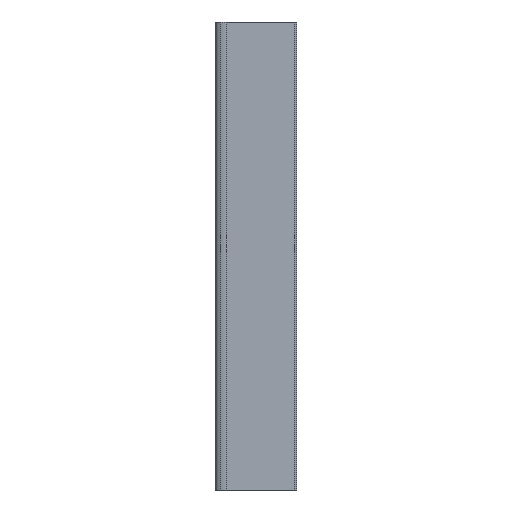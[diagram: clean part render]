
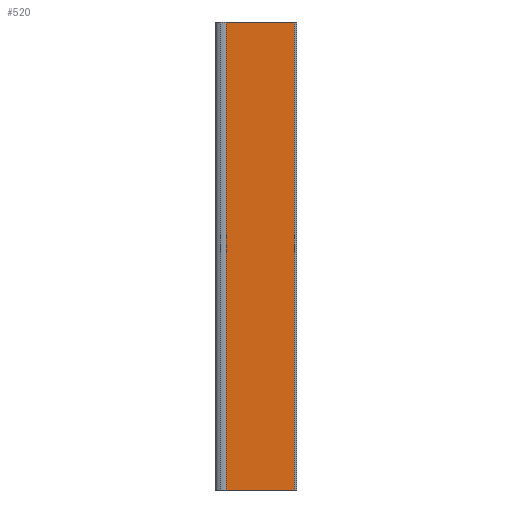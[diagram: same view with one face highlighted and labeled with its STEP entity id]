
A CAD part, left-side view. The second image highlights one B-rep face of the part: STEP entity #520.
In plain terms, the highlighted planar face has unit normal (-1, 0, 0).
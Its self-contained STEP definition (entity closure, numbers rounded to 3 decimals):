
#40 = VERTEX_POINT ( 'NONE', #83 ) ;
#83 = CARTESIAN_POINT ( 'NONE',  ( -8.945, -78.967, 0. ) ) ;
#154 = PLANE ( 'NONE',  #1237 ) ;
#157 = CARTESIAN_POINT ( 'NONE',  ( -8.945, -3.6, 518. ) ) ;
#163 = DIRECTION ( 'NONE',  ( 1., 0., 0. ) ) ;
#164 = DIRECTION ( 'NONE',  ( 0., 1., 0. ) ) ;
#280 = EDGE_LOOP ( 'NONE', ( #375, #377, #368, #413 ) ) ;
#368 = ORIENTED_EDGE ( 'NONE', *, *, #1047, .F. ) ;
#375 = ORIENTED_EDGE ( 'NONE', *, *, #1097, .T. ) ;
#377 = ORIENTED_EDGE ( 'NONE', *, *, #1089, .F. ) ;
#413 = ORIENTED_EDGE ( 'NONE', *, *, #1184, .T. ) ;
#520 = ADVANCED_FACE ( 'NONE', ( #1378 ), #154, .F. ) ;
#562 = VERTEX_POINT ( 'NONE', #680 ) ;
#569 = VERTEX_POINT ( 'NONE', #686 ) ;
#570 = VERTEX_POINT ( 'NONE', #687 ) ;
#680 = CARTESIAN_POINT ( 'NONE',  ( -8.945, -78.967, 518. ) ) ;
#686 = CARTESIAN_POINT ( 'NONE',  ( -8.945, -3.6, 0. ) ) ;
#687 = CARTESIAN_POINT ( 'NONE',  ( -8.945, -3.6, 518. ) ) ;
#716 = CARTESIAN_POINT ( 'NONE',  ( -8.945, -3.6, 518. ) ) ;
#722 = DIRECTION ( 'NONE',  ( 0., -1., 0. ) ) ;
#804 = CARTESIAN_POINT ( 'NONE',  ( -8.945, -78.967, 518. ) ) ;
#807 = DIRECTION ( 'NONE',  ( 0., 0., -1. ) ) ;
#814 = CARTESIAN_POINT ( 'NONE',  ( -8.945, -3.6, 0. ) ) ;
#827 = DIRECTION ( 'NONE',  ( 0., -1., 0. ) ) ;
#901 = CARTESIAN_POINT ( 'NONE',  ( -8.945, -3.6, 518. ) ) ;
#902 = DIRECTION ( 'NONE',  ( 0., 0., -1. ) ) ;
#1011 = VECTOR ( 'NONE', #827, 1000. ) ;
#1012 = LINE ( 'NONE', #814, #1011 ) ;
#1028 = LINE ( 'NONE', #901, #1029 ) ;
#1029 = VECTOR ( 'NONE', #902, 1000. ) ;
#1047 = EDGE_CURVE ( 'NONE', #570, #562, #1307, .T. ) ;
#1089 = EDGE_CURVE ( 'NONE', #562, #40, #1262, .T. ) ;
#1097 = EDGE_CURVE ( 'NONE', #569, #40, #1012, .T. ) ;
#1184 = EDGE_CURVE ( 'NONE', #570, #569, #1028, .T. ) ;
#1237 = AXIS2_PLACEMENT_3D ( 'NONE', #157, #163, #164 ) ;
#1246 = VECTOR ( 'NONE', #807, 1000. ) ;
#1262 = LINE ( 'NONE', #804, #1246 ) ;
#1307 = LINE ( 'NONE', #716, #1308 ) ;
#1308 = VECTOR ( 'NONE', #722, 1000. ) ;
#1378 = FACE_OUTER_BOUND ( 'NONE', #280, .T. ) ;
